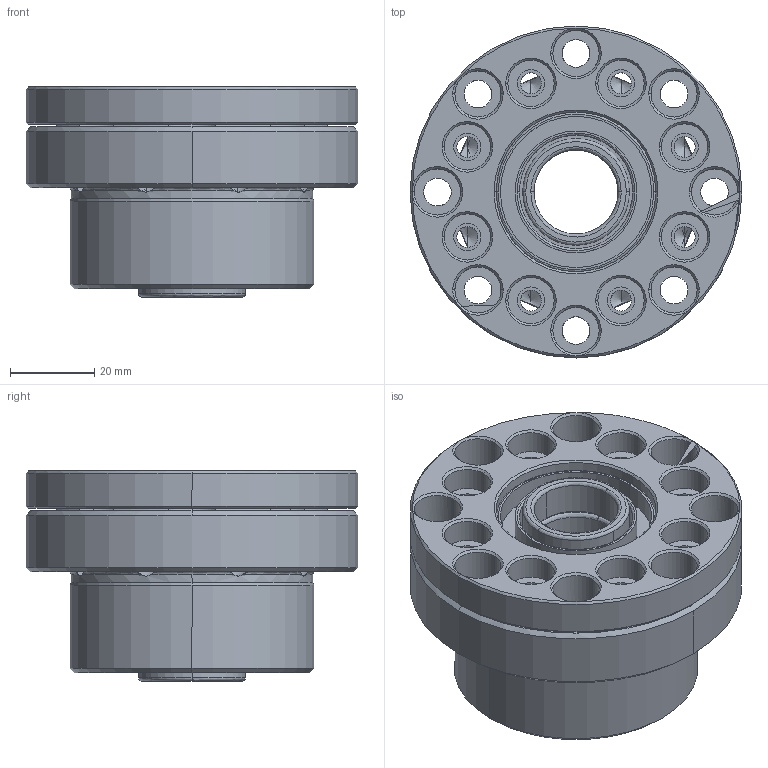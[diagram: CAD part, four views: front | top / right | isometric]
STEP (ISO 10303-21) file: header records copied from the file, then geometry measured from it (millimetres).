
FILE_DESCRIPTION (( 'STEP AP203' ), '1' );
FILE_NAME ('MBK20DF.STEP', '2010-03-25T08:20:10', ( '' ), ( '' ), 'SwSTEP 2.0', 'SolidWorks 2008', '' );
FILE_SCHEMA (( 'CONFIG_CONTROL_DESIGN' ));
Length unit declared in the file: millimetre
Products named in the file (1): MBK20DF
Bounding box: 79 x 79 x 50 mm (x, y, z)
Volume: 124891.2 mm3; surface area: 72718.9 mm2
Topology: 40 solids, 40 shells, 502 faces, 1359 edges, 789 vertices
Faces by surface type: cylinder 173, cone 145, bspline 114, plane 68, torus 2
Entity records: 17233 total; most frequent: CARTESIAN_POINT 5523, DIRECTION 2509, ORIENTED_EDGE 2458, EDGE_CURVE 1229, AXIS2_PLACEMENT_3D 1111, VERTEX_POINT 789, CIRCLE 722, EDGE_LOOP 574
